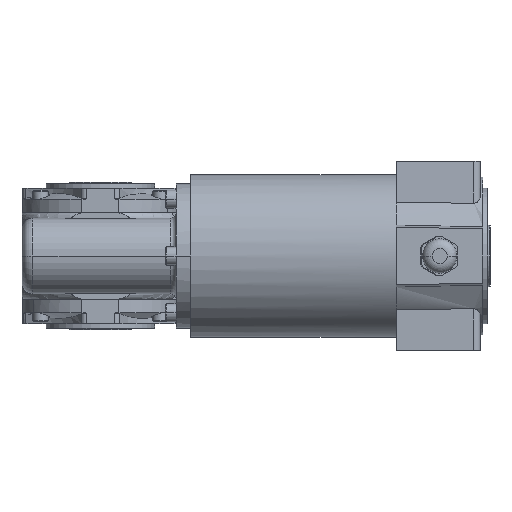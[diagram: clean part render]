
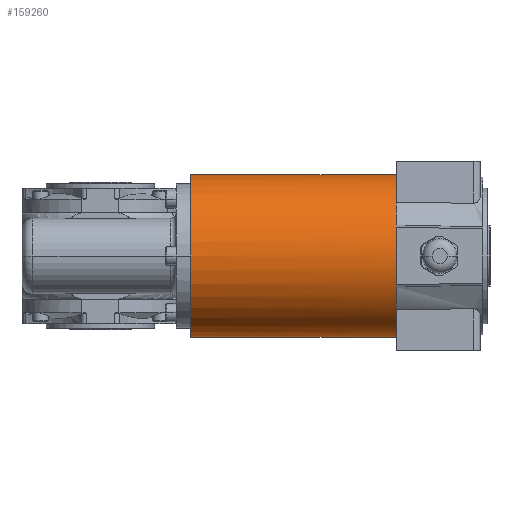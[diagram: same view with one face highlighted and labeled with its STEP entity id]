
A CAD part, front view. The second image highlights one B-rep face of the part: STEP entity #159260.
In plain terms, the highlighted cylindrical face has radius 45 mm (diameter 90 mm), a partial arc.
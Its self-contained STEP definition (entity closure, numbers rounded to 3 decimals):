
#21200=CARTESIAN_POINT('',(-64.,458.874,
-134.584));
#21210=DIRECTION('',(0.,1.,
-0.026));
#21220=DIRECTION('',(1.,0.,0.));
#21230=AXIS2_PLACEMENT_3D('',#21200,#21210,#21220);
#21240=CIRCLE('',#21230,45.);
#21250=CARTESIAN_POINT('',(-19.,458.874,
-134.584));
#21260=VERTEX_POINT('',#21250);
#21270=CARTESIAN_POINT('',(-109.,458.874,
-134.584));
#21280=VERTEX_POINT('',#21270);
#21290=EDGE_CURVE('',#21260,#21280,#21240,.T.);
#21360=CARTESIAN_POINT('',(-64.,458.874,
-134.584));
#21370=DIRECTION('',(0.,1.,
-0.026));
#21380=DIRECTION('',(1.,0.,0.));
#21390=AXIS2_PLACEMENT_3D('',#21360,#21370,#21380);
#21400=CYLINDRICAL_SURFACE('',#21390,45.);
#21410=CARTESIAN_POINT('',(-109.,458.874,
-134.584));
#21420=DIRECTION('',(0.,1.,
-0.026));
#21430=VECTOR('',#21420,1.);
#21440=LINE('',#21410,#21430);
#21450=CARTESIAN_POINT('',(-109.,572.835,
-137.568));
#21460=VERTEX_POINT('',#21450);
#21470=EDGE_CURVE('',#21280,#21460,#21440,.T.);
#21490=CARTESIAN_POINT('',(-64.,572.835,
-137.568));
#21500=DIRECTION('',(0.,1.,
-0.026));
#21510=DIRECTION('',(1.,0.,0.));
#21520=AXIS2_PLACEMENT_3D('',#21490,#21500,#21510);
#21530=CIRCLE('',#21520,45.);
#21540=CARTESIAN_POINT('',(-19.,572.835,
-137.568));
#21550=VERTEX_POINT('',#21540);
#21580=CARTESIAN_POINT('',(-19.,458.874,
-134.584));
#21590=DIRECTION('',(0.,1.,
-0.026));
#21600=VECTOR('',#21590,1.);
#21610=LINE('',#21580,#21600);
#21620=EDGE_CURVE('',#21260,#21550,#21610,.T.);
#21730=EDGE_CURVE('',#21550,#21460,#21530,.T.);
#159200=ORIENTED_EDGE('',*,*,#21730,.F.);
#159210=ORIENTED_EDGE('',*,*,#21470,.T.);
#159220=ORIENTED_EDGE('',*,*,#21290,.T.);
#159230=ORIENTED_EDGE('',*,*,#21620,.F.);
#159240=EDGE_LOOP('',(#159230,#159220,#159210,#159200));
#159250=FACE_OUTER_BOUND('',#159240,.T.);
#159260=ADVANCED_FACE('',(#159250),#21400,.T.);
